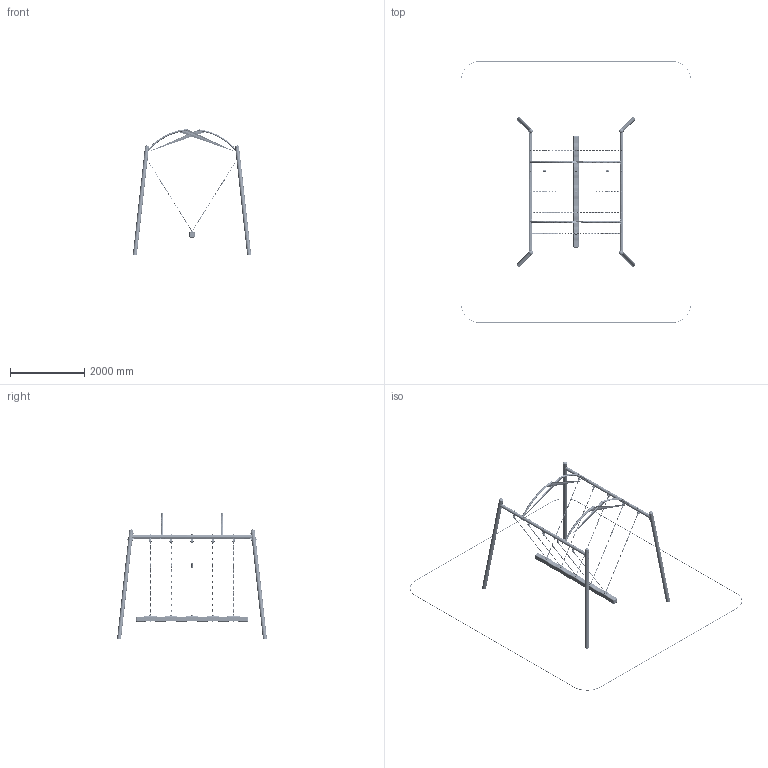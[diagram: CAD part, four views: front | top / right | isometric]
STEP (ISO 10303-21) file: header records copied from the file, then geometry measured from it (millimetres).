
FILE_DESCRIPTION(('STEP AP214'), '1');
FILE_NAME('Ê×-28', '', ('UNSPECIFIED'), ('UNSPECIFIED'), 'C3D Converter', 'C3D Toolkit', '');
FILE_SCHEMA(('AUTOMOTIVE_DESIGN { 1 0 10303 214 3 1 1}'));
Length unit declared in the file: millimetre
Products named in the file (49): КЧ-28; OpM-02; DuM-02; -01; BaM-03; BaM-03-01; -02; TPD12; TPD10; TPD16; 1251-200; КЧМ6КС; ПВГн150-3; ПФРЧП6_1
Assembly tree (318 placements, depth 4):
  КЧ-28
    OpM-02
      (unnamed)
      (unnamed)
      (unnamed)
    OpM-02
      (unnamed)
      (unnamed)
      (unnamed)
    OpM-02
      (unnamed)
      (unnamed)
      (unnamed)
    OpM-02
      (unnamed)
      (unnamed)
      (unnamed)
    DuM-02  x2
      (unnamed)
      (unnamed)
      -01
    BaM-03
      -01
      (unnamed)  x2
      (unnamed)  x2
      -01  x2
    BaM-03-01
      -02
      -01  x2
      -01  x2
      (unnamed)  x2
    TPD12  x16
    TPD10  x16
    TPD16  x10
    (unnamed)
      1251-200  x10
        (unnamed)
        (unnamed)
        (unnamed)
        (unnamed)
        (unnamed)
        (unnamed)
        (unnamed)
        (unnamed)
        TPD10
      (unnamed)  x10
      (unnamed)  x10
      (unnamed)  x10
      КЧМ6КС  x20
        КЧМ6КС
      ПВГн150-3  x5
        (unnamed)
        (unnamed)
        (unnamed)
      (unnamed)  x10
        (unnamed)
      (unnamed)
    ПФРЧП6_1  x20
Bounding box: 6175.49 x 7022.9 x 3381.19 mm (x, y, z)
Volume: 92251103.2 mm3; surface area: 18569886.2 mm2
Topology: 1577 solids, 1577 shells, 12730 faces, 27985 edges, 16222 vertices
Faces by surface type: plane 4066, cylinder 3757, torus 2745, bspline 1088, cone 813, sphere 257, revolution 4
Full cylindrical faces by diameter (mm): 4.5 x80, 4.917 x10, 6 x10, 6.3 x2360, 6.5 x20, 6.6 x10, 8 x20, 8.3 x80, 8.376 x20, 10 x20, 10.106 x5, 10.5 x60, 10.8 x20, 11 x80, 12 x15, 13 x5, 13.835 x10, 14 x5, 16 x80, 16.5 x20, 18 x5, 20 x80, 21 x36, 24 x20, 25 x16, 29 x15, 31 x10, 75 x10, 83 x2, 89 x2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
Entity records: 83620 total; most frequent: CARTESIAN_POINT 48836, DIRECTION 4327, ORIENTED_EDGE 3750, EDGE_CURVE 1875, AXIS2_PLACEMENT_3D 1779, EDGE_LOOP 1311, VERTEX_POINT 1276, FACE_BOUND 956
